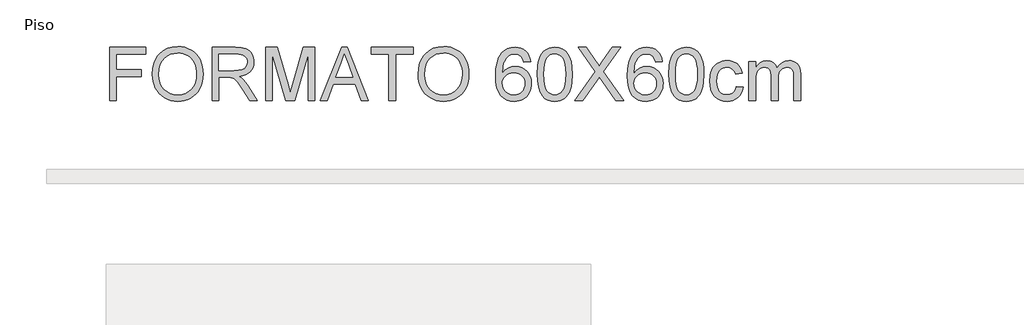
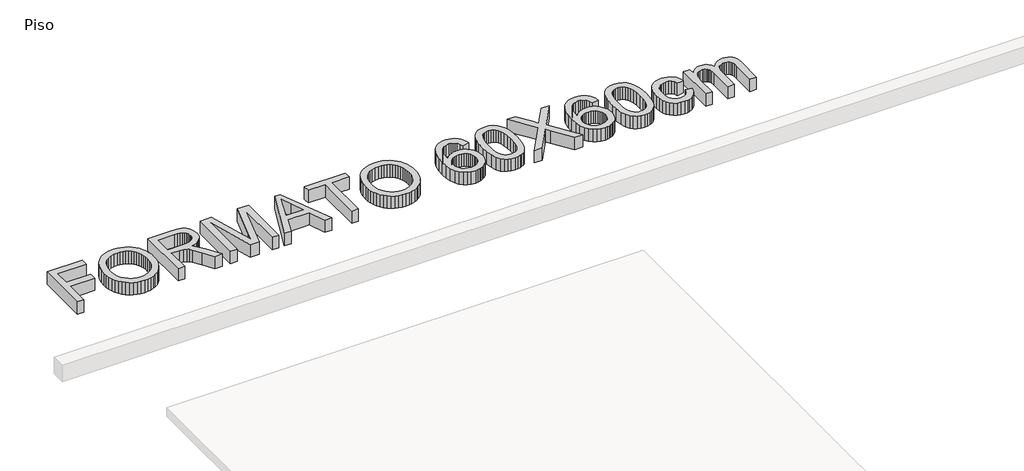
# One storey, part 2 of 2: 1 proxy.
"""IFC4 building model written with IfcOpenShell, lengths in millimetres."""

from ifc_helpers import new_model, si_unit, origin, origin_with_axes, place, context, project, spatial, polyline, outline, extrude, element, save

model = new_model("IFC4")

# Units and contexts
model_context = context("Model", 3, world=origin())
ifc_project = project(units=[si_unit("LENGTHUNIT", "METRE", prefix="MILLI")], contexts=[model_context])

# Site, building, storey
site = spatial("IfcSite", under=ifc_project)
building = spatial("IfcBuilding", under=site)
storey = spatial("IfcBuildingStorey", under=building, Name="Piso", Elevation=0.0)

# Proxy
placement = place(None, origin())
element("IfcBuildingElementProxy", 1, Name="600mm Arial", ObjectType="600mm Arial", at=placement, inside=storey, context=model_context, shape_type="SweptSolid", body=[
    extrude(outline(polyline([(124602.0859381, 2702.6380465), (124602.0859381, 3305.3759074), (125007.0504384, 3305.3759074), (125007.0504384, 3230.0336748), (124677.4281707, 3230.0336748), (124677.4281707, 3051.0958724), (124959.961543, 3051.0958724), (124959.961543, 2975.7536397), (124677.4281707, 2975.7536397), (124677.4281707, 2702.6380465), (124602.0859381, 2702.6380465)])), origin_with_axes(), (0.0, 0.0, 1.0), 150.0),
    extrude(outline(polyline([(125082.392671, 2996.0607259), (125087.4142602, 3066.7584483), (125102.4790279, 3129.3443727), (125127.5869741, 3183.8184992), (125143.9071391, 3208.0136381), (125162.7380987, 3230.1808276), (125205.8262774, 3267.1989534), (125254.7453857, 3293.6404718), (125309.4954237, 3309.5053828), (125370.0763912, 3314.7936865), (125410.6261841, 3312.310483), (125449.134232, 3304.8608726), (125485.6005348, 3292.4448553), (125520.0250925, 3275.062431), (125551.4422148, 3253.2378317), (125578.8862117, 3227.495289), (125602.357083, 3197.8348032), (125621.8548287, 3164.2563741), (125637.1771138, 3127.5233569), (125648.1216032, 3088.3991067), (125654.6882968, 3046.8836235), (125656.8771947, 3002.9769074), (125654.5733337, 2958.4907771), (125647.6617507, 2916.4142739), (125636.1424457, 2876.7473978), (125620.0154187, 2839.4901487), (125599.6623474, 2805.6266111), (125575.4649091, 2776.1408692), (125547.423104, 2751.032923), (125515.5369321, 2730.3027726), (125481.0617906, 2714.0791766), (125445.2530769, 2702.4908937), (125408.110791, 2695.537924), (125369.6349328, 2693.2202674), (125328.3769671, 2695.7816458), (125289.3630815, 2703.465781), (125252.5932761, 2716.272673), (125218.0675508, 2734.2023217), (125186.6872166, 2756.56035), (125159.3535844, 2782.6523805), (125136.0666541, 2812.4784132), (125116.8264257, 2846.0384482), (125101.761658, 2881.9851177), (125091.0011097, 2918.9710538), (125084.5447807, 2956.9962565), (125082.392671, 2996.0607259)]), holes=[polyline([(125157.7349036, 2995.3249619), (125161.5010955, 2945.375784), (125172.7996713, 2901.0368065), (125191.6306309, 2862.3080295), (125217.9939744, 2829.1894529), (125250.0410947, 2802.665161), (125285.9233848, 2783.7192383), (125325.6408447, 2772.3516846), (125369.1934744, 2768.5625001), (125413.4910652, 2772.3884728), (125453.6775746, 2783.8663911), (125489.7530028, 2802.9962548), (125521.7173496, 2829.7780641), (125547.8875551, 2863.5956165), (125566.5805589, 2903.8327097), (125577.7963613, 2950.4893437), (125581.5349621, 3003.5655186), (125579.9346754, 3038.0452586), (125575.1338153, 3070.2625243), (125567.1323819, 3100.2173158), (125555.9303752, 3127.9096329), (125541.6519552, 3152.9761924), (125524.4212823, 3175.0537106), (125504.2383563, 3194.1421877), (125481.1031774, 3210.2416235), (125455.7331153, 3223.0209243), (125428.84554, 3232.1489963), (125400.4404514, 3237.6258395), (125370.5178496, 3239.4514539), (125328.4781346, 3235.9335823), (125289.4734461, 3225.3799676), (125253.503784, 3207.7906097), (125220.5691484, 3183.1655086), (125193.0791663, 3150.318245), (125173.4434648, 3108.0623993), (125161.6620439, 3056.3979716), (125157.7349036, 2995.3249619)])]), origin_with_axes(), (0.0, 0.0, 1.0), 150.0),
    extrude(outline(polyline([(125760.4727645, 2702.6380465), (125760.4727645, 3305.3759074), (126020.1974531, 3305.3759074), (126090.0030617, 3301.3108114), (126140.7891711, 3289.1155232), (126160.3880844, 3279.4218327), (126177.9084644, 3266.6011451), (126193.3503112, 3250.6534606), (126206.7136247, 3231.5787792), (126217.4971656, 3210.4025718), (126225.1996949, 3188.1503097), (126229.8212125, 3164.8219926), (126231.3617183, 3140.4176208), (126228.809537, 3109.4603509), (126221.152993, 3081.0414668), (126208.3920863, 3055.1609684), (126190.5268169, 3031.8188558), (126167.3272585, 3011.76009), (126138.563485, 2995.7296321), (126104.2354964, 2983.727482), (126064.3432925, 2975.7536397), (126089.1753272, 2959.5300438), (126107.1647568, 2943.527177), (126138.0300562, 2906.9229184), (126168.233168, 2865.9776524), (126268.738529, 2702.6380465), (126181.1826142, 2702.6380465), (126102.7501728, 2827.5707721), (126046.0963456, 2910.2706446), (126025.0351013, 2934.3853094), (126006.2915137, 2949.3397125), (125970.4598074, 2963.6871103), (125926.7554263, 2966.3358607), (125835.8149971, 2966.3358607), (125835.8149971, 2702.6380465), (125760.4727645, 2702.6380465)]), holes=[polyline([(125835.8149971, 3041.6780933), (126004.4521037, 3041.6780933), (126052.8837684, 3044.3452377), (126090.4629142, 3052.3466711), (126118.7530396, 3066.2158224), (126139.3176431, 3086.4861203), (126151.8440251, 3111.0054553), (126156.0194857, 3137.6217176), (126154.0283244, 3156.8895371), (126148.0548405, 3174.3731289), (126138.099034, 3190.0724931), (126124.1609049, 3203.9876296), (126105.9185565, 3215.3827744), (126083.050092, 3223.5221635), (126055.5555114, 3228.405797), (126023.4348147, 3230.0336748), (125835.8149971, 3230.0336748), (125835.8149971, 3041.6780933)])]), origin_with_axes(), (0.0, 0.0, 1.0), 150.0),
    extrude(outline(polyline([(126363.2106254, 2702.6380465), (126363.2106254, 3305.3759074), (126492.8522405, 3305.3759074), (126616.1662853, 2880.5457794), (126641.0351082, 2791.8126422), (126667.9640702, 2887.9034193), (126789.2179758, 3305.3759074), (126918.8595909, 3305.3759074), (126918.8595909, 2702.6380465), (126843.5173583, 2702.6380465), (126843.5173583, 3230.0336748), (126692.0971291, 2702.6380465), (126589.9730872, 2702.6380465), (126438.552858, 3230.0336748), (126438.552858, 2702.6380465), (126363.2106254, 2702.6380465)])), origin_with_axes(), (0.0, 0.0, 1.0), 150.0),
    extrude(outline(polyline([(126980.5166133, 2702.6380465), (127221.1114382, 3305.3759074), (127285.2700581, 3305.3759074), (127525.864883, 2702.6380465), (127446.2552192, 2702.6380465), (127377.2405569, 2890.9936281), (127128.9937866, 2890.9936281), (127060.1262771, 2702.6380465), (126980.5166133, 2702.6380465)]), holes=[polyline([(127156.6585126, 2966.3358607), (127349.7229837, 2966.3358607), (127295.4236012, 3114.5187283), (127253.1907481, 3230.0336748), (127215.6667846, 3127.4681746), (127156.6585126, 2966.3358607)])]), origin_with_axes(), (0.0, 0.0, 1.0), 150.0),
    extrude(outline(polyline([(127757.0419287, 2702.6380465), (127757.0419287, 3230.0336748), (127559.2685681, 3230.0336748), (127559.2685681, 3305.3759074), (128030.1575219, 3305.3759074), (128030.1575219, 3230.0336748), (127832.3841613, 3230.0336748), (127832.3841613, 2702.6380465), (127757.0419287, 2702.6380465)])), origin_with_axes(), (0.0, 0.0, 1.0), 150.0),
    extrude(outline(polyline([(128086.6641964, 2996.0607259), (128091.6857856, 3066.7584483), (128106.7505533, 3129.3443727), (128131.8584995, 3183.8184992), (128148.1786645, 3208.0136381), (128167.0096242, 3230.1808276), (128210.0978028, 3267.1989534), (128259.0169111, 3293.6404718), (128313.7669491, 3309.5053828), (128374.3479166, 3314.7936865), (128414.8977096, 3312.310483), (128453.4057574, 3304.8608726), (128489.8720602, 3292.4448553), (128524.2966179, 3275.062431), (128555.7137403, 3253.2378317), (128583.1577371, 3227.495289), (128606.6286084, 3197.8348032), (128626.1263541, 3164.2563741), (128641.4486392, 3127.5233569), (128652.3931286, 3088.3991067), (128658.9598222, 3046.8836235), (128661.1487201, 3002.9769074), (128658.8448591, 2958.4907771), (128651.9332761, 2916.4142739), (128640.4139711, 2876.7473978), (128624.2869442, 2839.4901487), (128603.9338728, 2805.6266111), (128579.7364345, 2776.1408692), (128551.6946295, 2751.032923), (128519.8084575, 2730.3027726), (128485.3333161, 2714.0791766), (128449.5246024, 2702.4908937), (128412.3823164, 2695.537924), (128373.9064582, 2693.2202674), (128332.6484925, 2695.7816458), (128293.6346069, 2703.465781), (128256.8648015, 2716.272673), (128222.3390762, 2734.2023217), (128190.958742, 2756.56035), (128163.6251098, 2782.6523805), (128140.3381795, 2812.4784132), (128121.0979512, 2846.0384482), (128106.0331835, 2881.9851177), (128095.2726351, 2918.9710538), (128088.8163061, 2956.9962565), (128086.6641964, 2996.0607259)]), holes=[polyline([(128162.006429, 2995.3249619), (128165.7726209, 2945.375784), (128177.0711967, 2901.0368065), (128195.9021564, 2862.3080295), (128222.2654998, 2829.1894529), (128254.3126201, 2802.665161), (128290.1949102, 2783.7192383), (128329.9123701, 2772.3516846), (128373.4649998, 2768.5625001), (128417.7625906, 2772.3884728), (128457.9491, 2783.8663911), (128494.0245282, 2802.9962548), (128525.988875, 2829.7780641), (128552.1590805, 2863.5956165), (128570.8520844, 2903.8327097), (128582.0678867, 2950.4893437), (128585.8064875, 3003.5655186), (128584.2062008, 3038.0452586), (128579.4053407, 3070.2625243), (128571.4039074, 3100.2173158), (128560.2019006, 3127.9096329), (128545.9234807, 3152.9761924), (128528.6928077, 3175.0537106), (128508.5098818, 3194.1421877), (128485.3747028, 3210.2416235), (128460.0046407, 3223.0209243), (128433.1170654, 3232.1489963), (128404.7119768, 3237.6258395), (128374.789375, 3239.4514539), (128332.74966, 3235.9335823), (128293.7449715, 3225.3799676), (128257.7753094, 3207.7906097), (128224.8406738, 3183.1655086), (128197.3506917, 3150.318245), (128177.7149902, 3108.0623993), (128165.9335693, 3056.3979716), (128162.006429, 2995.3249619)])]), origin_with_axes(), (0.0, 0.0, 1.0), 150.0),
    extrude(outline(polyline([(129358.0643717, 3145.2736631), (129282.7221391, 3135.855884), (129270.5820333, 3173.1959066), (129254.1744963, 3198.6901288), (129237.9784915, 3212.4029302), (129219.9982589, 3222.1977883), (129200.2337988, 3228.0747032), (129178.6851109, 3230.0336748), (129143.6627449, 3225.4719381), (129110.7005182, 3211.7867278), (129082.3919987, 3182.9631735), (129059.2706153, 3143.2871003), (129050.2345137, 3117.9814176), (129043.6540246, 3087.166702), (129037.8598831, 3009.0101721), (129068.081389, 3044.2716613), (129104.2993715, 3069.1220901), (129144.4904794, 3083.855764), (129186.631362, 3088.7669887), (129222.8309503, 3085.4100655), (129256.2346355, 3075.3392958), (129286.8424175, 3058.5546798), (129314.6542963, 3035.0562174), (129337.7664827, 3006.2418601), (129354.2751872, 2973.5095596), (129364.1804099, 2936.8593158), (129367.4821508, 2896.2911288), (129365.9278494, 2868.8241393), (129361.2649451, 2842.3412342), (129353.4934379, 2816.8424134), (129342.6133279, 2792.3276769), (129329.0108912, 2769.7121313), (129313.0724037, 2749.9108829), (129294.7978656, 2732.9239318), (129274.1872768, 2718.7512779), (129251.6820958, 2707.5814608), (129227.7237808, 2699.6030201), (129202.312332, 2694.8159556), (129175.4477493, 2693.2202674), (129130.5339562, 2697.4509104), (129089.9703678, 2710.1428392), (129053.7569839, 2731.2960539), (129021.8938045, 2760.9105546), (128995.9167372, 2800.2371398), (128977.361689, 2850.5266086), (128966.2286602, 2911.7789608), (128962.5176505, 2983.9941964), (128966.6379289, 3064.9558265), (128978.9987639, 3134.0532623), (128999.6001556, 3191.2865037), (129012.9910603, 3215.4540515), (129028.4421041, 3236.6555507), (129059.7028766, 3266.7207068), (129095.9484502, 3288.1958182), (129137.1788248, 3301.0808851), (129183.3940004, 3305.3759074), (129218.0944696, 3302.71796), (129249.502395, 3294.7441178), (129277.6177764, 3281.4543807), (129302.4406141, 3262.8487488), (129323.2995232, 3239.5526214), (129339.5231192, 3212.191398), (129351.111402, 3180.7650786), (129358.0643717, 3145.2736631)]), holes=[polyline([(129037.8598831, 2897.4683512), (129042.2192848, 2864.0830601), (129055.2974897, 2832.2060852), (129075.6045758, 2804.7988766), (129101.6506211, 2784.8228842), (129133.0861376, 2772.6275961), (129169.5616374, 2768.5625001), (129195.7502369, 2770.6686245), (129219.2808891, 2776.9869978), (129240.1535938, 2787.5176199), (129258.368351, 2802.2604908), (129273.1434117, 2820.6178024), (129283.6970264, 2841.9917463), (129290.0291953, 2866.3823226), (129292.1399182, 2893.7895312), (129290.0567864, 2920.1252835), (129283.807391, 2943.5087829), (129273.391732, 2963.9400292), (129258.8098094, 2981.4190225), (129240.5398699, 2995.4215309), (129219.0601599, 3005.4233227), (129194.3706795, 3011.4243977), (129166.4714287, 3013.4247561), (129140.632317, 3011.4243977), (129116.8257534, 3005.4233227), (129095.0517378, 2995.4215309), (129075.3102702, 2981.4190225), (129058.9257259, 2964.1699554), (129047.2224799, 2944.4284879), (129040.2005323, 2922.1946198), (129037.8598831, 2897.4683512)])]), origin_with_axes(), (0.0, 0.0, 1.0), 150.0),
    extrude(outline(polyline([(129433.4066044, 2999.1509346), (129438.9432284, 3095.6279879), (129445.8640084, 3136.5410643), (129455.5531005, 3172.5705072), (129467.9691178, 3204.0106222), (129483.0706737, 3231.1557149), (129500.8577682, 3254.0057853), (129521.3304012, 3272.5608335), (129544.5575507, 3286.9174283), (129570.6081945, 3297.1721389), (129599.4823325, 3303.3249653), (129631.179965, 3305.3759074), (129677.6066727, 3300.5198651), (129719.1773382, 3285.9517381), (129753.9421867, 3262.2417435), (129779.9514438, 3229.9600984), (129799.5963424, 3189.3827143), (129815.2681153, 3140.7855028), (129825.532023, 3079.0732981), (129828.9533256, 2999.1509346), (129823.4718838, 2903.2257044), (129816.6200817, 2862.4505838), (129807.0275587, 2826.4671261), (129794.7081103, 2795.0132155), (129779.6755323, 2767.8267361), (129761.9298246, 2744.9076878), (129741.4709871, 2726.2560706), (129718.2162465, 2711.8029067), (129692.0828293, 2701.4792182), (129663.0707354, 2695.2850051), (129631.179965, 2693.2202674), (129589.6828759, 2696.8071169), (129552.8946764, 2707.5676653), (129520.8153664, 2725.5019125), (129493.444946, 2750.6098587), (129467.1781715, 2795.9972999), (129448.4161898, 2852.5499596), (129437.1590007, 2920.2678378), (129433.4066044, 2999.1509346)]), holes=[polyline([(129508.748837, 2999.2980874), (129510.9561289, 2933.8012967), (129517.5780048, 2880.7849027), (129528.6144647, 2840.2489053), (129544.0655085, 2812.1933047), (129562.7539139, 2793.1048277), (129583.5024584, 2779.4702012), (129606.3111421, 2771.2894253), (129631.179965, 2768.5625001), (129656.0487878, 2771.2986224), (129678.8574715, 2779.5069894), (129699.6060161, 2793.1876011), (129718.2944214, 2812.3404575), (129733.7454652, 2840.4420434), (129744.7819251, 2880.9688437), (129751.403801, 2933.9208584), (129753.611093, 2999.2980874), (129751.4773774, 3063.0612342), (129745.0762307, 3115.1441277), (129734.4076528, 3155.5467678), (129719.4716438, 3184.2691546), (129701.0959381, 3204.2911322), (129680.1082703, 3218.5925448), (129656.5086403, 3227.1733923), (129630.2970482, 3230.0336748), (129605.556984, 3227.5136831), (129583.1345764, 3219.9537081), (129563.0298254, 3207.3537498), (129545.2427309, 3189.7138081), (129529.2766523, 3158.4438385), (129517.8723104, 3116.2845619), (129511.0297053, 3063.2359782), (129508.748837, 2999.2980874)])]), origin_with_axes(), (0.0, 0.0, 1.0), 150.0),
    extrude(outline(polyline([(129857.2066628, 2702.6380465), (130089.5609309, 3031.0830918), (129894.8777791, 3305.3759074), (129985.2295971, 3305.3759074), (130094.8584317, 3151.0126222), (130121.0148415, 3111.9067662), (130131.793784, 3090.8271278), (130175.0567066, 3152.0426918), (130283.5083188, 3305.3759074), (130375.184512, 3305.3759074), (130180.5013602, 3030.200175), (130412.8556283, 2702.6380465), (130322.5038103, 2702.6380465), (130167.6990667, 2921.0127989), (130135.4726039, 2966.3358607), (130100.0087796, 2916.5982149), (129948.882856, 2702.6380465), (129857.2066628, 2702.6380465)])), origin_with_axes(), (0.0, 0.0, 1.0), 150.0),
    extrude(outline(polyline([(130846.0734658, 3145.2736631), (130770.7312332, 3135.855884), (130758.5911274, 3173.1959066), (130742.1835904, 3198.6901288), (130725.9875856, 3212.4029302), (130708.007353, 3222.1977883), (130688.2428928, 3228.0747032), (130666.694205, 3230.0336748), (130631.671839, 3225.4719381), (130598.7096123, 3211.7867278), (130570.4010927, 3182.9631735), (130547.2797093, 3143.2871003), (130538.2436078, 3117.9814176), (130531.6631187, 3087.166702), (130525.8689772, 3009.0101721), (130556.0904831, 3044.2716613), (130592.3084656, 3069.1220901), (130632.4995735, 3083.855764), (130674.6404561, 3088.7669887), (130710.8400444, 3085.4100655), (130744.2437296, 3075.3392958), (130774.8515116, 3058.5546798), (130802.6633904, 3035.0562174), (130825.7755767, 3006.2418601), (130842.2842813, 2973.5095596), (130852.189504, 2936.8593158), (130855.4912449, 2896.2911288), (130853.9369435, 2868.8241393), (130849.2740392, 2842.3412342), (130841.502532, 2816.8424134), (130830.622422, 2792.3276769), (130817.0199853, 2769.7121313), (130801.0814978, 2749.9108829), (130782.8069597, 2732.9239318), (130762.1963709, 2718.7512779), (130739.6911899, 2707.5814608), (130715.7328749, 2699.6030201), (130690.3214261, 2694.8159556), (130663.4568434, 2693.2202674), (130618.5430503, 2697.4509104), (130577.9794618, 2710.1428392), (130541.7660779, 2731.2960539), (130509.9028986, 2760.9105546), (130483.9258313, 2800.2371398), (130465.3707831, 2850.5266086), (130454.2377542, 2911.7789608), (130450.5267446, 2983.9941964), (130454.647023, 3064.9558265), (130467.007858, 3134.0532623), (130487.6092497, 3191.2865037), (130501.0001544, 3215.4540515), (130516.4511982, 3236.6555507), (130547.7119707, 3266.7207068), (130583.9575443, 3288.1958182), (130625.1879189, 3301.0808851), (130671.4030945, 3305.3759074), (130706.1035637, 3302.71796), (130737.5114891, 3294.7441178), (130765.6268705, 3281.4543807), (130790.4497082, 3262.8487488), (130811.3086173, 3239.5526214), (130827.5322133, 3212.191398), (130839.1204961, 3180.7650786), (130846.0734658, 3145.2736631)]), holes=[polyline([(130525.8689772, 2897.4683512), (130530.2283789, 2864.0830601), (130543.3065838, 2832.2060852), (130563.6136699, 2804.7988766), (130589.6597152, 2784.8228842), (130621.0952317, 2772.6275961), (130657.5707315, 2768.5625001), (130683.759331, 2770.6686245), (130707.2899831, 2776.9869978), (130728.1626879, 2787.5176199), (130746.3774451, 2802.2604908), (130761.1525058, 2820.6178024), (130771.7061205, 2841.9917463), (130778.0382893, 2866.3823226), (130780.1490123, 2893.7895312), (130778.0658805, 2920.1252835), (130771.8164851, 2943.5087829), (130761.4008261, 2963.9400292), (130746.8189035, 2981.4190225), (130728.5489639, 2995.4215309), (130707.069254, 3005.4233227), (130682.3797736, 3011.4243977), (130654.4805227, 3013.4247561), (130628.6414111, 3011.4243977), (130604.8348475, 3005.4233227), (130583.0608319, 2995.4215309), (130563.3193643, 2981.4190225), (130546.93482, 2964.1699554), (130535.231574, 2944.4284879), (130528.2096264, 2922.1946198), (130525.8689772, 2897.4683512)])]), origin_with_axes(), (0.0, 0.0, 1.0), 150.0),
    extrude(outline(polyline([(130921.4156984, 2999.1509346), (130926.9523225, 3095.6279879), (130933.8731025, 3136.5410643), (130943.5621946, 3172.5705072), (130955.9782119, 3204.0106222), (130971.0797678, 3231.1557149), (130988.8668623, 3254.0057853), (131009.3394953, 3272.5608335), (131032.5666448, 3286.9174283), (131058.6172885, 3297.1721389), (131087.4914266, 3303.3249653), (131119.189059, 3305.3759074), (131165.6157668, 3300.5198651), (131207.1864323, 3285.9517381), (131241.9512808, 3262.2417435), (131267.9605379, 3229.9600984), (131287.6054364, 3189.3827143), (131303.2772094, 3140.7855028), (131313.5411171, 3079.0732981), (131316.9624197, 2999.1509346), (131311.4809779, 2903.2257044), (131304.6291758, 2862.4505838), (131295.0366527, 2826.4671261), (131282.7172044, 2795.0132155), (131267.6846264, 2767.8267361), (131249.9389187, 2744.9076878), (131229.4800812, 2726.2560706), (131206.2253406, 2711.8029067), (131180.0919234, 2701.4792182), (131151.0798295, 2695.2850051), (131119.189059, 2693.2202674), (131077.69197, 2696.8071169), (131040.9037705, 2707.5676653), (131008.8244605, 2725.5019125), (130981.4540401, 2750.6098587), (130955.1872656, 2795.9972999), (130936.4252838, 2852.5499596), (130925.1680948, 2920.2678378), (130921.4156984, 2999.1509346)]), holes=[polyline([(130996.7579311, 2999.2980874), (130998.965223, 2933.8012967), (131005.5870989, 2880.7849027), (131016.6235588, 2840.2489053), (131032.0746026, 2812.1933047), (131050.7630079, 2793.1048277), (131071.5115525, 2779.4702012), (131094.3202362, 2771.2894253), (131119.189059, 2768.5625001), (131144.0578819, 2771.2986224), (131166.8665656, 2779.5069894), (131187.6151102, 2793.1876011), (131206.3035155, 2812.3404575), (131221.7545593, 2840.4420434), (131232.7910192, 2880.9688437), (131239.4128951, 2933.9208584), (131241.620187, 2999.2980874), (131239.4864715, 3063.0612342), (131233.0853248, 3115.1441277), (131222.4167469, 3155.5467678), (131207.4807379, 3184.2691546), (131189.1050322, 3204.2911322), (131168.1173644, 3218.5925448), (131144.5177344, 3227.1733923), (131118.3061423, 3230.0336748), (131093.5660781, 3227.5136831), (131071.1436705, 3219.9537081), (131051.0389194, 3207.3537498), (131033.251825, 3189.7138081), (131017.2857464, 3158.4438385), (131005.8814045, 3116.2845619), (130999.0387994, 3063.2359782), (130996.7579311, 2999.2980874)])]), origin_with_axes(), (0.0, 0.0, 1.0), 150.0),
    extrude(outline(polyline([(131684.2558036, 2862.7402908), (131759.5980363, 2853.3225117), (131751.4034648, 2817.7713154), (131738.5919743, 2786.3128063), (131721.1635648, 2758.9469844), (131699.1182362, 2735.6738497), (131673.3848907, 2717.1004075), (131644.8924302, 2703.833663), (131613.6408547, 2695.8736163), (131579.6301642, 2693.2202674), (131537.3743185, 2696.92208), (131499.4870716, 2708.0275178), (131465.9684233, 2726.5365806), (131436.8183737, 2752.4492687), (131413.2233422, 2785.2781382), (131396.3697483, 2824.5357456), (131386.257592, 2870.2220909), (131382.8868732, 2922.337174), (131388.6442264, 2989.3836677), (131395.8409179, 3019.5545898), (131405.9162861, 3047.4906288), (131418.9393087, 3072.6307646), (131434.9789637, 3094.4139773), (131454.0352511, 3112.8402667), (131476.1081708, 3127.9096329), (131500.1998429, 3139.6266745), (131525.3123876, 3147.9959899), (131551.4458049, 3153.0175791), (131578.6000946, 3154.6914422), (131612.0267724, 3152.3921797), (131642.2620739, 3145.4943923), (131669.3059991, 3133.99808), (131693.1585479, 3117.9032427), (131713.4150503, 3097.5777624), (131729.6708359, 3073.3895213), (131741.9259049, 3045.3385191), (131750.1802572, 3013.4247561), (131674.8380246, 3004.006977), (131661.1712084, 3036.8772332), (131639.889235, 3060.440075), (131612.1693267, 3074.6219259), (131579.1887058, 3079.3492096), (131553.5887175, 3077.022356), (131530.4995238, 3070.0417951), (131509.9211247, 3058.407527), (131491.8535202, 3042.1195517), (131477.1428389, 3020.8007901), (131466.6352094, 2994.0741631), (131460.3306317, 2961.9396708), (131458.2291058, 2924.3973132), (131460.2846465, 2886.289337), (131466.4512684, 2853.7823642), (131476.7289716, 2826.8763948), (131491.1177562, 2805.5714288), (131508.8266757, 2789.3800225), (131529.064784, 2777.8147322), (131551.832081, 2770.8755581), (131577.1285666, 2768.5625001), (131616.1424522, 2774.3382474), (131633.0144402, 2781.5579315), (131648.1297917, 2791.6654894), (131661.0654424, 2804.7712854), (131671.3983279, 2820.9856844), (131679.1284483, 2840.3086862), (131684.2558036, 2862.7402908)])), origin_with_axes(), (0.0, 0.0, 1.0), 150.0),
    extrude(outline(polyline([(131825.5224898, 2702.6380465), (131825.5224898, 3145.2736631), (131900.8647224, 3145.2736631), (131900.8647224, 3072.4330281), (131923.5262533, 3105.8918955), (131952.6625073, 3132.1034877), (131987.2802031, 3149.0444536), (132026.3860592, 3154.6914422), (132068.2878184, 3148.934089), (132086.1208981, 3141.7373974), (132101.8754446, 3131.6620293), (132126.9649966, 3104.0156974), (132143.3725336, 3067.1355273), (132170.8349246, 3105.4412401), (132202.1600765, 3132.8024635), (132237.3479893, 3149.2191975), (132276.3986631, 3154.6914422), (132306.5603882, 3152.4151724), (132333.0340962, 3145.5863628), (132355.8197873, 3134.2050136), (132374.9174614, 3118.2711247), (132390.0144188, 3097.6007551), (132400.7979597, 3072.0099638), (132407.2680843, 3041.4987508), (132409.4247925, 3006.0671161), (132409.4247925, 2702.6380465), (132334.0825599, 2702.6380465), (132334.0825599, 2973.6935006), (132332.3351204, 3011.2726464), (132327.092802, 3036.6013217), (132317.2703527, 3053.9469578), (132301.7825207, 3067.5769857), (132281.8617107, 3076.4061536), (132258.7403273, 3079.3492096), (132237.389376, 3077.4638144), (132217.9238199, 3071.8076287), (132200.3436591, 3062.3806526), (132184.6488935, 3049.182886), (132171.740834, 3031.8280529), (132162.5207915, 3009.9298771), (132156.988766, 2983.4883587), (132155.1447575, 2952.5034976), (132155.1447575, 2702.6380465), (132079.8025249, 2702.6380465), (132079.8025249, 2982.0812101), (132075.4431232, 3024.6819451), (132069.9938712, 3041.4021818), (132062.3649183, 3055.0689979), (132052.2527619, 3065.6915905), (132039.3538995, 3073.2791567), (132023.6683309, 3077.8316964), (132005.1960562, 3079.3492096), (131976.1701668, 3075.3025076), (131949.4251458, 3063.1624018), (131927.3522261, 3043.2231977), (131912.3426407, 3015.7792008), (131903.734202, 2977.7034143), (131900.8647224, 2925.8688412), (131900.8647224, 2702.6380465), (131825.5224898, 2702.6380465)])), origin_with_axes(), (0.0, 0.0, 1.0), 150.0),
])

save(model, "model.ifc")
